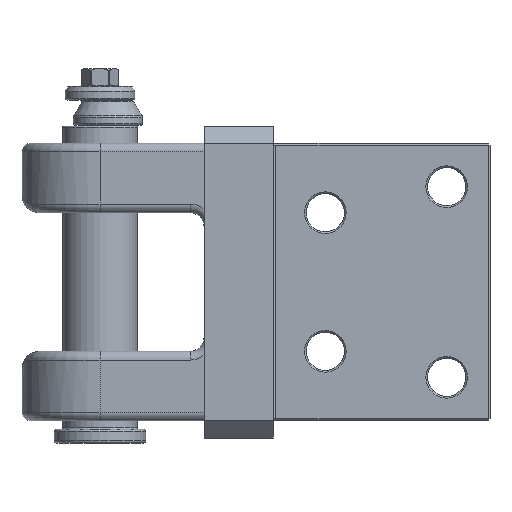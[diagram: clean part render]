
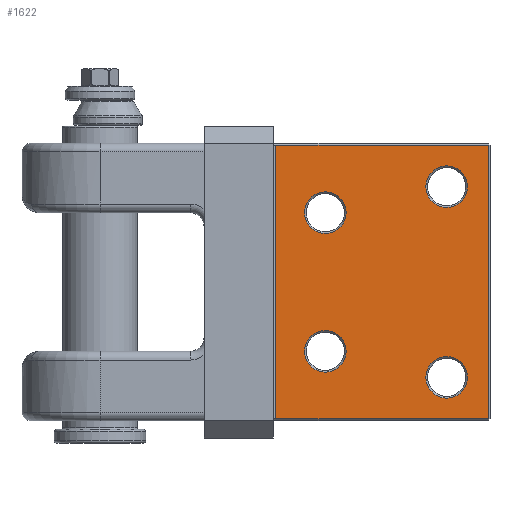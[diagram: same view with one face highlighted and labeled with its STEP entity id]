
A CAD part, left-side view. The second image highlights one B-rep face of the part: STEP entity #1622.
In plain terms, the highlighted planar face has unit normal (-1, 0, 0).
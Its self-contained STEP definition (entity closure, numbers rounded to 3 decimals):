
#1622=ADVANCED_FACE('',(#6020,#6021,#6022,#6023,#6024),#2612,.F.);
#2612=PLANE('',#18345);
#3055=CIRCLE('',#18341,12.);
#3056=CIRCLE('',#18342,12.);
#3057=CIRCLE('',#18343,12.);
#3058=CIRCLE('',#18344,12.);
#3436=LINE('',#24487,#4585);
#3437=LINE('',#24490,#4586);
#3438=LINE('',#24492,#4587);
#3439=LINE('',#24494,#4588);
#4585=VECTOR('',#19418,1.);
#4586=VECTOR('',#19419,1.);
#4587=VECTOR('',#19420,1.);
#4588=VECTOR('',#19421,1.);
#6020=FACE_BOUND('',#6294,.T.);
#6021=FACE_BOUND('',#6295,.T.);
#6022=FACE_BOUND('',#6296,.T.);
#6023=FACE_BOUND('',#6297,.T.);
#6024=FACE_BOUND('',#6298,.T.);
#6294=EDGE_LOOP('',(#7888));
#6295=EDGE_LOOP('',(#7889));
#6296=EDGE_LOOP('',(#7890));
#6297=EDGE_LOOP('',(#7891));
#6298=EDGE_LOOP('',(#7892,#7893,#7894,#7895));
#7888=ORIENTED_EDGE('',*,*,#14654,.T.);
#7889=ORIENTED_EDGE('',*,*,#14655,.T.);
#7890=ORIENTED_EDGE('',*,*,#14656,.T.);
#7891=ORIENTED_EDGE('',*,*,#14657,.T.);
#7892=ORIENTED_EDGE('',*,*,#14658,.T.);
#7893=ORIENTED_EDGE('',*,*,#14659,.T.);
#7894=ORIENTED_EDGE('',*,*,#14660,.T.);
#7895=ORIENTED_EDGE('',*,*,#14661,.T.);
#12944=VERTEX_POINT('',#24480);
#12945=VERTEX_POINT('',#24482);
#12946=VERTEX_POINT('',#24484);
#12947=VERTEX_POINT('',#24486);
#12948=VERTEX_POINT('',#24488);
#12949=VERTEX_POINT('',#24489);
#12950=VERTEX_POINT('',#24491);
#12951=VERTEX_POINT('',#24493);
#14654=EDGE_CURVE('',#12944,#12944,#3055,.T.);
#14655=EDGE_CURVE('',#12945,#12945,#3056,.T.);
#14656=EDGE_CURVE('',#12946,#12946,#3057,.T.);
#14657=EDGE_CURVE('',#12947,#12947,#3058,.T.);
#14658=EDGE_CURVE('',#12948,#12949,#3436,.T.);
#14659=EDGE_CURVE('',#12949,#12950,#3437,.T.);
#14660=EDGE_CURVE('',#12950,#12951,#3438,.T.);
#14661=EDGE_CURVE('',#12951,#12948,#3439,.T.);
#18341=AXIS2_PLACEMENT_3D('',#24479,#19410,#19411);
#18342=AXIS2_PLACEMENT_3D('',#24481,#19412,#19413);
#18343=AXIS2_PLACEMENT_3D('',#24483,#19414,#19415);
#18344=AXIS2_PLACEMENT_3D('',#24485,#19416,#19417);
#18345=AXIS2_PLACEMENT_3D('',#24495,#19422,#19423);
#19410=DIRECTION('',(1.,0.,0.));
#19411=DIRECTION('',(0.,0.,-1.));
#19412=DIRECTION('',(1.,0.,0.));
#19413=DIRECTION('',(0.,0.,-1.));
#19414=DIRECTION('',(1.,0.,0.));
#19415=DIRECTION('',(0.,0.,-1.));
#19416=DIRECTION('',(1.,0.,0.));
#19417=DIRECTION('',(0.,0.,-1.));
#19418=DIRECTION('',(0.,0.,1.));
#19419=DIRECTION('',(0.,1.,0.));
#19420=DIRECTION('',(0.,0.,-1.));
#19421=DIRECTION('',(0.,-1.,0.));
#19422=DIRECTION('',(1.,0.,0.));
#19423=DIRECTION('',(0.,0.,-1.));
#24479=CARTESIAN_POINT('',(-35.,25.,-25.));
#24480=CARTESIAN_POINT('',(-35.,25.,-37.));
#24481=CARTESIAN_POINT('',(-35.,25.,-135.));
#24482=CARTESIAN_POINT('',(-35.,25.,-147.));
#24483=CARTESIAN_POINT('',(-35.,95.,-40.));
#24484=CARTESIAN_POINT('',(-35.,95.,-52.));
#24485=CARTESIAN_POINT('',(-35.,95.,-120.));
#24486=CARTESIAN_POINT('',(-35.,95.,-132.));
#24487=CARTESIAN_POINT('',(-35.,1.,0.));
#24488=CARTESIAN_POINT('',(-35.,1.,-159.));
#24489=CARTESIAN_POINT('',(-35.,1.,-1.));
#24490=CARTESIAN_POINT('',(-35.,0.,-1.));
#24491=CARTESIAN_POINT('',(-35.,123.5,-1.));
#24492=CARTESIAN_POINT('',(-35.,123.5,-160.));
#24493=CARTESIAN_POINT('',(-35.,123.5,-159.));
#24494=CARTESIAN_POINT('',(-35.,0.,-159.));
#24495=CARTESIAN_POINT('',(-35.,0.,0.));
